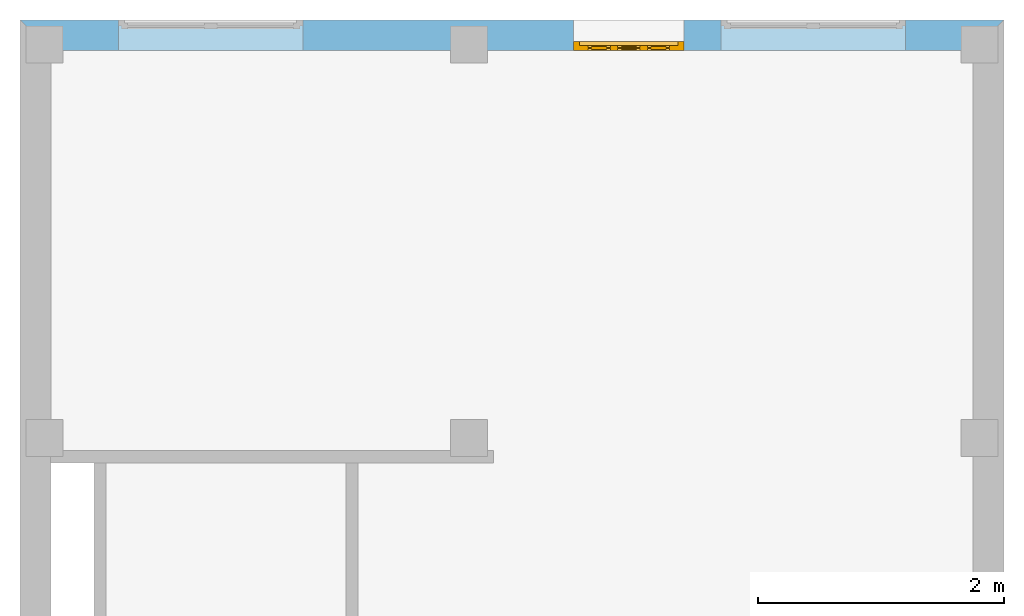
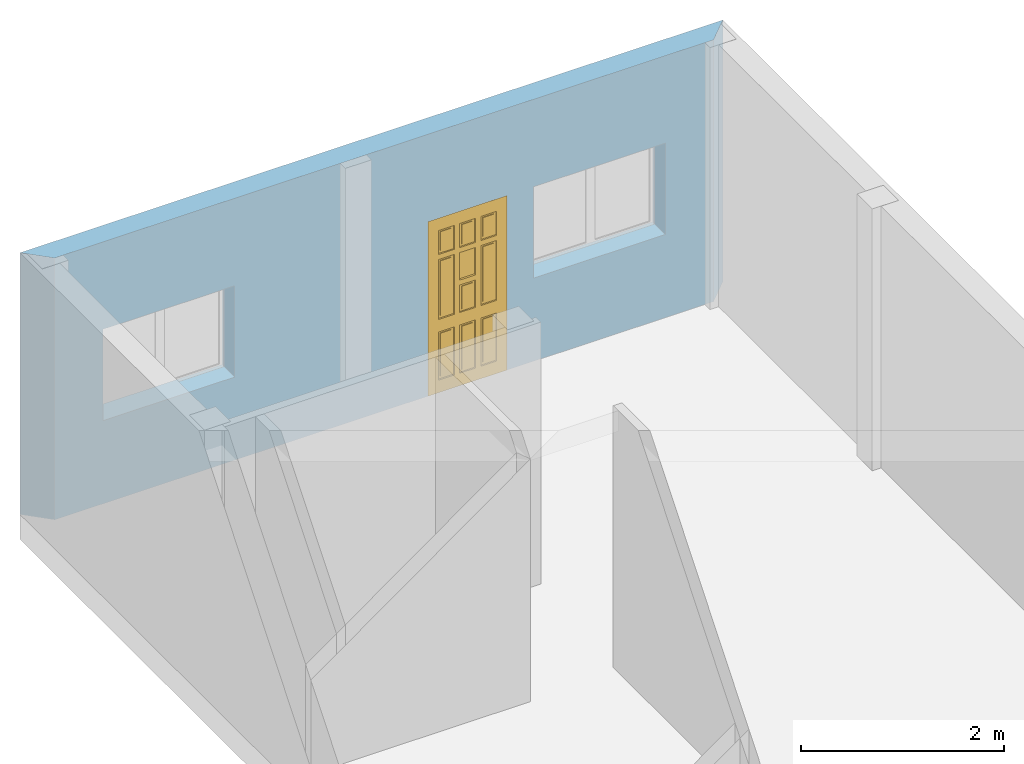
# One storey, part 5 of 5: 1 door, 3 openings, plus 1 element that does not belong to this part.
"""IFC2X3 building model written with IfcOpenShell, lengths in millimetres."""

from ifc_helpers import new_model, entity, si_unit, converted_unit, direction, frame, frame_2d, origin_with_axes, place, context, project, spatial, polyline, rectangle, outline, extrude, open_shell, surface_model, material, layer, layer_set, layer_usage, type_object, element, fill, save


model = new_model("IFC2X3")

# Units and contexts
context_of_model = context(None, 3, precision=1e-05, world=origin_with_axes(), true_north=direction((6.123234e-17, 1.0)))
plan_context = context("Plan", 3, precision=1e-05, world=origin_with_axes(), true_north=direction((6.123234e-17, 1.0)))
model_context = context("Model", 3, precision=1e-05, world=origin_with_axes(), true_north=direction((6.123234e-17, 1.0)))
ifc_project = project(units=[si_unit("LENGTHUNIT", "METRE", prefix="MILLI"), si_unit("AREAUNIT", "SQUARE_METRE"), si_unit("VOLUMEUNIT", "CUBIC_METRE"), converted_unit("PLANEANGLEUNIT", "DEGREE", entity("IfcPlaneAngleMeasure", 0.017453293), si_unit("PLANEANGLEUNIT", "RADIAN"), dimensions=[0, 0, 0, 0, 0, 0, 0]), si_unit("SOLIDANGLEUNIT", "STERADIAN"), si_unit("MASSUNIT", "GRAM"), si_unit("TIMEUNIT", "SECOND"), si_unit("THERMODYNAMICTEMPERATUREUNIT", "DEGREE_CELSIUS"), si_unit("LUMINOUSINTENSITYUNIT", "LUMEN")], contexts=[context_of_model, plan_context, model_context])

# Site, building, storey
site_placement = place(None, origin_with_axes())
site = spatial("IfcSite", under=ifc_project, at=site_placement, Name="Por defecto Sitio", CompositionType="ELEMENT")
building_placement = place(site_placement, origin_with_axes())
building = spatial("IfcBuilding", under=site, at=building_placement, Name="Por defecto Edificio", CompositionType="ELEMENT")
storey_placement = place(building_placement, origin_with_axes())
storey = spatial("IfcBuildingStorey", under=building, at=storey_placement, Name="Planta Baja", CompositionType="ELEMENT", Elevation=0.0)

# Wall, openings, door
ifc_material = material(Name="Bloque mampostería")
ifc_layer = layer(ifc_material, 250.0, ventilated="UNKNOWN")
ifc_layer_set = layer_set([ifc_layer], Name="Bloque mampostería 250")
ifc_layer_usage = layer_usage(ifc_layer_set, "AXIS2", "NEGATIVE", 0.0)
wall_type = type_object("IfcWallType", Name="Bloque mampostería 250", PredefinedType="NOTDEFINED", material=ifc_layer_set)
wall_placement = place(storey_placement, frame((-200.0, 12750.0, 0.0), z_axis=(0.0, 0.0, 1.0), x_axis=(1.0, 0.0, 0.0)))
wall = element("IfcWallStandardCase", 1, at=wall_placement, inside=storey, type_object=wall_type, material=ifc_layer_usage, Name="Muro-005", context=model_context, shape_type="SweptSolid", body=[
    extrude(outline(polyline([(250.0, -250.0), (7750.0, -250.0), (8000.0, 0.0), (0.0, 0.0), (250.0, -250.0)])), origin_with_axes(), (0.0, 0.0, 1.0), 3150.0),
])
opening_1_placement = place(wall_placement, frame((4950.0, -250.0, 0.0), z_axis=(0.0, 0.0, 1.0), x_axis=(1.0, 0.0, 0.0)))
opening_1 = element("IfcOpeningElement", 2, at=opening_1_placement, cuts=wall, ObjectType="Opening", context=model_context, shape_type="SweptSolid", body=[
    extrude(rectangle(XDim=900.0, YDim=2100.0, at=frame_2d((0.0, 1050.0), x_axis=(-1.0, 0.0))), frame((0.0, 0.0, 0.0), z_axis=(0.0, 1.0, 0.0), x_axis=(-1.0, 0.0, 0.0)), (0.0, 0.0, 1.0), 250.0),
])
opening_2_placement = place(wall_placement, frame((6450.0, -250.0, 1000.0), z_axis=(0.0, 0.0, 1.0), x_axis=(1.0, 0.0, 0.0)))
element("IfcOpeningElement", 3, at=opening_2_placement, cuts=wall, ObjectType="Opening", context=model_context, shape_type="SweptSolid", body=[
    extrude(rectangle(XDim=1500.0, YDim=1100.0, at=frame_2d((0.0, 550.0), x_axis=(-1.0, 0.0))), frame((0.0, 0.0, 0.0), z_axis=(0.0, 1.0, 0.0), x_axis=(-1.0, 0.0, 0.0)), (0.0, 0.0, 1.0), 250.0),
])
opening_3_placement = place(wall_placement, frame((1549.7728, -250.0, 1000.0), z_axis=(0.0, 0.0, 1.0), x_axis=(1.0, 0.0, 0.0)))
element("IfcOpeningElement", 4, at=opening_3_placement, cuts=wall, ObjectType="Opening", context=model_context, shape_type="SweptSolid", body=[
    extrude(rectangle(XDim=1500.0, YDim=1100.0, at=frame_2d((-1.110223e-13, 550.0), x_axis=(1.0, 0.0))), frame((0.0, 0.0, 0.0), z_axis=(0.0, 1.0, 0.0), x_axis=(-1.0, 0.0, 0.0)), (0.0, 0.0, 1.0), 250.0),
])
door_style = type_object("IfcDoorStyle", Name="P1 Entrada 13", ConstructionType="NOTDEFINED", OperationType="SINGLE_SWING_RIGHT", ParameterTakesPrecedence=False, Sizeable=False)
door_placement = place(opening_1_placement, frame((450.0, 75.0, 0.0), z_axis=(0.0, 0.0, 1.0), x_axis=(-1.0, 0.0, 0.0)))
door = element("IfcDoor", 5, at=door_placement, inside=storey, type_object=door_style, Name="P03", OverallHeight=2100.0, OverallWidth=900.0, context=model_context, shape_type="SurfaceModel", body=[
    surface_model("IfcShellBasedSurfaceModel", [(862.0, 31.0, -5.3884459e-15), (862.0, 31.0, 12.0), (850.0, 31.0, 12.0), (850.0, 31.0, -5.3884459e-15), (38.0, 31.0, -5.3884459e-15), (38.0, 31.0, 12.0), (50.0, 31.0, 12.0), (50.0, 0.0, 12.0), (850.0, 0.0, 12.0), (850.0, 0.0, -9.184851e-15), (50.0, 0.0, -9.184851e-15), (50.0, 31.0, -5.3884459e-15), (50.0, 31.0, -2.694223e-15), (50.0, 31.0, 2050.0), (50.0, 0.0, 2050.0), (50.0, 0.0, -4.5924255e-15), (38.0, 31.0, 2050.0), (38.0, 31.0, -2.694223e-15), (38.0, 75.0, 2050.0), (0.0, 75.0, 2050.0), (0.0, 0.0, 2050.0), (0.0, 0.0, 0.0), (0.0, 75.0, 3.3744595e-30), (38.0, 75.0, 3.0895052e-30), (862.0, 31.0, 2050.0), (850.0, 31.0, 2050.0), (850.0, 0.0, 2050.0), (900.0, 0.0, 2050.0), (900.0, 75.0, 2050.0), (862.0, 75.0, 2050.0), (862.0, 31.0, -2.694223e-15), (850.0, 31.0, -2.694223e-15), (850.0, 0.0, -4.5924255e-15), (900.0, 0.0, -4.5924255e-15), (900.0, 75.0, -3.3744595e-30), (862.0, 75.0, -3.0895052e-30), (38.0, 75.0, 2062.0), (38.0, 75.0, 2050.0), (0.0, 75.0, 2050.0), (0.0, 75.0, 2100.0), (900.0, 75.0, 2100.0), (900.0, 75.0, 2050.0), (862.0, 75.0, 2050.0), (862.0, 75.0, 2062.0), (38.0, 31.0, 2062.0), (38.0, 31.0, 2050.0), (50.0, 31.0, 2050.0), (50.0, 0.0, 2050.0), (0.0, 0.0, 2050.0), (0.0, 0.0, 2100.0), (900.0, 0.0, 2100.0), (900.0, 0.0, 2050.0), (862.0, 31.0, 2050.0), (850.0, 0.0, 2050.0), (850.0, 31.0, 2050.0), (862.0, 31.0, 2062.0), (862.0, 75.0, 150.0), (862.0, 31.0, 150.0), (782.0, 31.0, 150.0), (782.0, 75.0, 150.0), (862.0, 75.0, 1952.0), (862.0, 31.0, 1952.0), (782.0, 31.0, 1952.0), (782.0, 31.0, 1661.8667), (782.0, 31.0, 1601.8667), (782.0, 31.0, 880.0), (782.0, 31.0, 730.0), (782.0, 75.0, 730.0), (782.0, 75.0, 880.0), (782.0, 75.0, 1601.8667), (782.0, 75.0, 1661.8667), (782.0, 75.0, 1952.0), (38.0, 75.0, 150.0), (38.0, 31.0, 150.0), (38.0, 31.0, 1952.0), (38.0, 75.0, 1952.0), (118.0, 75.0, 150.0), (118.0, 31.0, 150.0), (118.0, 31.0, 730.0), (118.0, 31.0, 880.0), (118.0, 31.0, 1601.8667), (118.0, 31.0, 1661.8667), (118.0, 31.0, 1952.0), (118.0, 75.0, 1952.0), (118.0, 75.0, 1661.8667), (118.0, 75.0, 1601.8667), (118.0, 75.0, 880.0), (118.0, 75.0, 730.0), (862.0, 75.0, -3.0895052e-30), (862.0, 31.0, -2.694223e-15), (38.0, 31.0, -2.694223e-15), (38.0, 75.0, 3.0895052e-30), (862.0, 75.0, 150.0), (862.0, 31.0, 150.0), (782.0, 31.0, 150.0), (600.66667, 31.0, 150.0), (540.66667, 31.0, 150.0), (359.33333, 31.0, 150.0), (299.33333, 31.0, 150.0), (118.0, 31.0, 150.0), (38.0, 31.0, 150.0), (38.0, 75.0, 150.0), (118.0, 75.0, 150.0), (299.33333, 75.0, 150.0), (359.33333, 75.0, 150.0), (540.66667, 75.0, 150.0), (600.66667, 75.0, 150.0), (782.0, 75.0, 150.0), (862.0, 75.0, 2062.0), (862.0, 31.0, 2062.0), (862.0, 31.0, 1952.0), (862.0, 75.0, 1952.0), (38.0, 75.0, 2062.0), (38.0, 31.0, 2062.0), (38.0, 31.0, 1952.0), (118.0, 31.0, 1952.0), (299.33333, 31.0, 1952.0), (359.33333, 31.0, 1952.0), (540.66667, 31.0, 1952.0), (600.66667, 31.0, 1952.0), (782.0, 31.0, 1952.0), (782.0, 75.0, 1952.0), (600.66667, 75.0, 1952.0), (540.66667, 75.0, 1952.0), (359.33333, 75.0, 1952.0), (299.33333, 75.0, 1952.0), (118.0, 75.0, 1952.0), (38.0, 75.0, 1952.0), (540.66667, 75.0, 150.0), (540.66667, 31.0, 150.0), (540.66667, 31.0, 730.0), (540.66667, 75.0, 730.0), (600.66667, 75.0, 150.0), (600.66667, 31.0, 150.0), (600.66667, 31.0, 730.0), (600.66667, 75.0, 730.0), (540.66667, 75.0, 880.0), (540.66667, 31.0, 880.0), (540.66667, 31.0, 1210.9333), (540.66667, 75.0, 1210.9333), (600.66667, 75.0, 880.0), (600.66667, 31.0, 880.0), (600.66667, 31.0, 1601.8667), (540.66667, 31.0, 1601.8667), (540.66667, 31.0, 1270.9333), (540.66667, 75.0, 1270.9333), (540.66667, 75.0, 1601.8667), (600.66667, 75.0, 1601.8667), (540.66667, 75.0, 1661.8667), (540.66667, 31.0, 1661.8667), (540.66667, 31.0, 1952.0), (540.66667, 75.0, 1952.0), (600.66667, 75.0, 1661.8667), (600.66667, 31.0, 1661.8667), (600.66667, 31.0, 1952.0), (600.66667, 75.0, 1952.0), (299.33333, 75.0, 150.0), (299.33333, 31.0, 150.0), (299.33333, 31.0, 730.0), (299.33333, 75.0, 730.0), (359.33333, 75.0, 150.0), (359.33333, 31.0, 150.0), (359.33333, 31.0, 730.0), (359.33333, 75.0, 730.0), (299.33333, 75.0, 880.0), (299.33333, 31.0, 880.0), (299.33333, 31.0, 1601.8667), (299.33333, 75.0, 1601.8667), (359.33333, 75.0, 880.0), (359.33333, 31.0, 880.0), (359.33333, 31.0, 1210.9333), (359.33333, 31.0, 1270.9333), (359.33333, 31.0, 1601.8667), (359.33333, 75.0, 1601.8667), (359.33333, 75.0, 1270.9333), (359.33333, 75.0, 1210.9333), (299.33333, 75.0, 1661.8667), (299.33333, 31.0, 1661.8667), (299.33333, 31.0, 1952.0), (299.33333, 75.0, 1952.0), (359.33333, 75.0, 1661.8667), (359.33333, 31.0, 1661.8667), (359.33333, 31.0, 1952.0), (359.33333, 75.0, 1952.0), (782.0, 75.0, 1601.8667), (782.0, 31.0, 1601.8667), (600.66667, 31.0, 1601.8667), (600.66667, 75.0, 1601.8667), (782.0, 75.0, 1661.8667), (782.0, 31.0, 1661.8667), (600.66667, 31.0, 1661.8667), (540.66667, 31.0, 1661.8667), (359.33333, 31.0, 1661.8667), (299.33333, 31.0, 1661.8667), (118.0, 31.0, 1661.8667), (118.0, 31.0, 1601.8667), (299.33333, 31.0, 1601.8667), (359.33333, 31.0, 1601.8667), (540.66667, 31.0, 1601.8667), (540.66667, 75.0, 1601.8667), (359.33333, 75.0, 1601.8667), (299.33333, 75.0, 1601.8667), (118.0, 75.0, 1601.8667), (118.0, 75.0, 1661.8667), (299.33333, 75.0, 1661.8667), (359.33333, 75.0, 1661.8667), (540.66667, 75.0, 1661.8667), (600.66667, 75.0, 1661.8667), (359.33333, 75.0, 1210.9333), (359.33333, 31.0, 1210.9333), (359.33333, 31.0, 1270.9333), (359.33333, 75.0, 1270.9333), (540.66667, 75.0, 1210.9333), (540.66667, 31.0, 1210.9333), (540.66667, 31.0, 1270.9333), (540.66667, 75.0, 1270.9333), (782.0, 75.0, 730.0), (782.0, 31.0, 730.0), (600.66667, 31.0, 730.0), (600.66667, 75.0, 730.0), (782.0, 75.0, 880.0), (782.0, 31.0, 880.0), (600.66667, 31.0, 880.0), (540.66667, 31.0, 880.0), (359.33333, 31.0, 880.0), (299.33333, 31.0, 880.0), (118.0, 31.0, 880.0), (118.0, 31.0, 730.0), (299.33333, 31.0, 730.0), (359.33333, 31.0, 730.0), (540.66667, 31.0, 730.0), (540.66667, 75.0, 730.0), (359.33333, 75.0, 730.0), (299.33333, 75.0, 730.0), (118.0, 75.0, 730.0), (118.0, 75.0, 880.0), (299.33333, 75.0, 880.0), (359.33333, 75.0, 880.0), (540.66667, 75.0, 880.0), (600.66667, 75.0, 880.0), (782.0, 58.0, 150.0), (782.0, 48.0, 150.0), (600.66667, 48.0, 150.0), (600.66667, 58.0, 150.0), (782.0, 58.0, 730.0), (782.0, 48.0, 730.0), (600.66667, 48.0, 730.0), (600.66667, 58.0, 730.0), (540.66667, 58.0, 150.0), (540.66667, 48.0, 150.0), (359.33333, 48.0, 150.0), (359.33333, 58.0, 150.0), (540.66667, 58.0, 730.0), (540.66667, 48.0, 730.0), (359.33333, 48.0, 730.0), (359.33333, 58.0, 730.0), (299.33333, 58.0, 150.0), (299.33333, 48.0, 150.0), (118.0, 48.0, 150.0), (118.0, 58.0, 150.0), (299.33333, 58.0, 730.0), (299.33333, 48.0, 730.0), (118.0, 48.0, 730.0), (118.0, 58.0, 730.0), (782.0, 58.0, 1661.8667), (782.0, 48.0, 1661.8667), (600.66667, 48.0, 1661.8667), (600.66667, 58.0, 1661.8667), (782.0, 58.0, 1952.0), (782.0, 48.0, 1952.0), (600.66667, 48.0, 1952.0), (600.66667, 58.0, 1952.0), (540.66667, 58.0, 1661.8667), (540.66667, 48.0, 1661.8667), (359.33333, 48.0, 1661.8667), (359.33333, 58.0, 1661.8667), (540.66667, 58.0, 1952.0), (540.66667, 48.0, 1952.0), (359.33333, 48.0, 1952.0), (359.33333, 58.0, 1952.0), (299.33333, 58.0, 1661.8667), (299.33333, 48.0, 1661.8667), (118.0, 48.0, 1661.8667), (118.0, 58.0, 1661.8667), (299.33333, 58.0, 1952.0), (299.33333, 48.0, 1952.0), (118.0, 48.0, 1952.0), (118.0, 58.0, 1952.0), (782.0, 58.0, 880.0), (782.0, 48.0, 880.0), (600.66667, 48.0, 880.0), (600.66667, 58.0, 880.0), (782.0, 58.0, 1601.8667), (782.0, 48.0, 1601.8667), (600.66667, 48.0, 1601.8667), (600.66667, 58.0, 1601.8667), (540.66667, 58.0, 880.0), (540.66667, 48.0, 880.0), (359.33333, 48.0, 880.0), (359.33333, 58.0, 880.0), (540.66667, 58.0, 1210.9333), (540.66667, 48.0, 1210.9333), (359.33333, 48.0, 1210.9333), (359.33333, 58.0, 1210.9333), (299.33333, 58.0, 880.0), (299.33333, 48.0, 880.0), (118.0, 48.0, 880.0), (118.0, 58.0, 880.0), (299.33333, 58.0, 1601.8667), (299.33333, 48.0, 1601.8667), (118.0, 48.0, 1601.8667), (118.0, 58.0, 1601.8667), (540.66667, 53.0, 1270.9333), (359.33333, 53.0, 1270.9333), (359.33333, 53.0, 1601.8667), (540.66667, 53.0, 1601.8667), (752.0, 66.0, 180.0), (752.0, 58.0, 180.0), (630.66667, 58.0, 180.0), (630.66667, 66.0, 180.0), (752.0, 66.0, 700.0), (752.0, 58.0, 700.0), (630.66667, 58.0, 700.0), (630.66667, 66.0, 700.0), (510.66667, 66.0, 180.0), (510.66667, 58.0, 180.0), (389.33333, 58.0, 180.0), (389.33333, 66.0, 180.0), (510.66667, 66.0, 700.0), (510.66667, 58.0, 700.0), (389.33333, 58.0, 700.0), (389.33333, 66.0, 700.0), (269.33333, 66.0, 180.0), (269.33333, 58.0, 180.0), (148.0, 58.0, 180.0), (148.0, 66.0, 180.0), (269.33333, 66.0, 700.0), (269.33333, 58.0, 700.0), (148.0, 58.0, 700.0), (148.0, 66.0, 700.0), (752.0, 66.0, 1691.8667), (752.0, 58.0, 1691.8667), (630.66667, 58.0, 1691.8667), (630.66667, 66.0, 1691.8667), (752.0, 66.0, 1922.0), (752.0, 58.0, 1922.0), (630.66667, 58.0, 1922.0), (630.66667, 66.0, 1922.0), (510.66667, 66.0, 1691.8667), (510.66667, 58.0, 1691.8667), (389.33333, 58.0, 1691.8667), (389.33333, 66.0, 1691.8667), (510.66667, 66.0, 1922.0), (510.66667, 58.0, 1922.0), (389.33333, 58.0, 1922.0), (389.33333, 66.0, 1922.0), (269.33333, 66.0, 1691.8667), (269.33333, 58.0, 1691.8667), (148.0, 58.0, 1691.8667), (148.0, 66.0, 1691.8667), (269.33333, 66.0, 1922.0), (269.33333, 58.0, 1922.0), (148.0, 58.0, 1922.0), (148.0, 66.0, 1922.0), (752.0, 66.0, 910.0), (752.0, 58.0, 910.0), (630.66667, 58.0, 910.0), (630.66667, 66.0, 910.0), (752.0, 66.0, 1571.8667), (752.0, 58.0, 1571.8667), (630.66667, 58.0, 1571.8667), (630.66667, 66.0, 1571.8667), (510.66667, 66.0, 910.0), (510.66667, 58.0, 910.0), (389.33333, 58.0, 910.0), (389.33333, 66.0, 910.0), (510.66667, 66.0, 1180.9333), (510.66667, 58.0, 1180.9333), (389.33333, 58.0, 1180.9333), (389.33333, 66.0, 1180.9333), (269.33333, 66.0, 910.0), (269.33333, 58.0, 910.0), (148.0, 58.0, 910.0), (148.0, 66.0, 910.0), (269.33333, 66.0, 1571.8667), (269.33333, 58.0, 1571.8667), (148.0, 58.0, 1571.8667), (148.0, 66.0, 1571.8667), (752.0, 48.0, 180.0), (752.0, 40.0, 180.0), (630.66667, 40.0, 180.0), (630.66667, 48.0, 180.0), (752.0, 48.0, 700.0), (752.0, 40.0, 700.0), (630.66667, 40.0, 700.0), (630.66667, 48.0, 700.0), (510.66667, 48.0, 180.0), (510.66667, 40.0, 180.0), (389.33333, 40.0, 180.0), (389.33333, 48.0, 180.0), (510.66667, 48.0, 700.0), (510.66667, 40.0, 700.0), (389.33333, 40.0, 700.0), (389.33333, 48.0, 700.0), (269.33333, 48.0, 180.0), (269.33333, 40.0, 180.0), (148.0, 40.0, 180.0), (148.0, 48.0, 180.0), (269.33333, 48.0, 700.0), (269.33333, 40.0, 700.0), (148.0, 40.0, 700.0), (148.0, 48.0, 700.0), (752.0, 48.0, 1691.8667), (752.0, 40.0, 1691.8667), (630.66667, 40.0, 1691.8667), (630.66667, 48.0, 1691.8667), (752.0, 48.0, 1922.0), (752.0, 40.0, 1922.0), (630.66667, 40.0, 1922.0), (630.66667, 48.0, 1922.0), (510.66667, 48.0, 1691.8667), (510.66667, 40.0, 1691.8667), (389.33333, 40.0, 1691.8667), (389.33333, 48.0, 1691.8667), (510.66667, 48.0, 1922.0), (510.66667, 40.0, 1922.0), (389.33333, 40.0, 1922.0), (389.33333, 48.0, 1922.0), (269.33333, 48.0, 1691.8667), (269.33333, 40.0, 1691.8667), (148.0, 40.0, 1691.8667), (148.0, 48.0, 1691.8667), (269.33333, 48.0, 1922.0), (269.33333, 40.0, 1922.0), (148.0, 40.0, 1922.0), (148.0, 48.0, 1922.0), (752.0, 48.0, 910.0), (752.0, 40.0, 910.0), (630.66667, 40.0, 910.0), (630.66667, 48.0, 910.0), (752.0, 48.0, 1571.8667), (752.0, 40.0, 1571.8667), (630.66667, 40.0, 1571.8667), (630.66667, 48.0, 1571.8667), (510.66667, 48.0, 910.0), (510.66667, 40.0, 910.0), (389.33333, 40.0, 910.0), (389.33333, 48.0, 910.0), (510.66667, 48.0, 1180.9333), (510.66667, 40.0, 1180.9333), (389.33333, 40.0, 1180.9333), (389.33333, 48.0, 1180.9333), (269.33333, 48.0, 910.0), (269.33333, 40.0, 910.0), (148.0, 40.0, 910.0), (148.0, 48.0, 910.0), (269.33333, 48.0, 1571.8667), (269.33333, 40.0, 1571.8667), (148.0, 40.0, 1571.8667), (148.0, 48.0, 1571.8667)], [open_shell([[[0, 1, 2, 3]], [[4, 5, 1, 0]], [[1, 5, 6, 7, 8, 2]], [[3, 2, 8, 9]], [[0, 3, 9, 10, 11, 4]], [[11, 6, 5, 4]], [[10, 7, 6, 11]], [[9, 8, 7, 10]]]), open_shell([[[12, 13, 14, 15]], [[16, 13, 12, 17]], [[16, 18, 19, 20, 14, 13]], [[21, 15, 14, 20]], [[17, 12, 15, 21, 22, 23]], [[18, 16, 17, 23]], [[18, 23, 22, 19]], [[20, 19, 22, 21]]]), open_shell([[[24, 25, 26, 27, 28, 29]], [[25, 24, 30, 31]], [[25, 31, 32, 26]], [[32, 33, 27, 26]], [[33, 34, 28, 27]], [[35, 29, 28, 34]], [[24, 29, 35, 30]], [[30, 35, 34, 33, 32, 31]]]), open_shell([[[36, 37, 38, 39, 40, 41, 42, 43]], [[37, 36, 44, 45]], [[45, 46, 47, 48, 38, 37]], [[49, 39, 38, 48]], [[50, 40, 39, 49]], [[51, 41, 40, 50]], [[52, 42, 41, 51, 53, 54]], [[43, 42, 52, 55]], [[36, 43, 55, 44]], [[52, 54, 46, 45, 44, 55]], [[46, 54, 53, 47]], [[50, 49, 48, 47, 53, 51]]]), open_shell([[[56, 57, 58, 59]], [[60, 61, 57, 56]], [[57, 61, 62, 63, 64, 65, 66, 58]], [[59, 58, 66, 67]], [[56, 59, 67, 68, 69, 70, 71, 60]], [[71, 62, 61, 60]], [[70, 63, 62, 71]], [[69, 64, 63, 70]], [[68, 65, 64, 69]], [[67, 66, 65, 68]]]), open_shell([[[72, 73, 74, 75]], [[76, 77, 73, 72]], [[73, 77, 78, 79, 80, 81, 82, 74]], [[75, 74, 82, 83]], [[72, 75, 83, 84, 85, 86, 87, 76]], [[87, 78, 77, 76]], [[86, 79, 78, 87]], [[85, 80, 79, 86]], [[84, 81, 80, 85]], [[83, 82, 81, 84]]]), open_shell([[[88, 89, 90, 91]], [[92, 93, 89, 88]], [[89, 93, 94, 95, 96, 97, 98, 99, 100, 90]], [[91, 90, 100, 101]], [[88, 91, 101, 102, 103, 104, 105, 106, 107, 92]], [[107, 94, 93, 92]], [[106, 95, 94, 107]], [[105, 96, 95, 106]], [[104, 97, 96, 105]], [[103, 98, 97, 104]], [[102, 99, 98, 103]], [[101, 100, 99, 102]]]), open_shell([[[108, 109, 110, 111]], [[112, 113, 109, 108]], [[109, 113, 114, 115, 116, 117, 118, 119, 120, 110]], [[111, 110, 120, 121]], [[108, 111, 121, 122, 123, 124, 125, 126, 127, 112]], [[127, 114, 113, 112]], [[126, 115, 114, 127]], [[125, 116, 115, 126]], [[124, 117, 116, 125]], [[123, 118, 117, 124]], [[122, 119, 118, 123]], [[121, 120, 119, 122]]]), open_shell([[[128, 129, 130, 131]], [[132, 133, 129, 128]], [[129, 133, 134, 130]], [[131, 130, 134, 135]], [[128, 131, 135, 132]], [[135, 134, 133, 132]]]), open_shell([[[136, 137, 138, 139]], [[140, 141, 137, 136]], [[137, 141, 142, 143, 144, 138]], [[139, 138, 144, 145]], [[136, 139, 145, 146, 147, 140]], [[147, 142, 141, 140]], [[146, 143, 142, 147]], [[145, 144, 143, 146]]]), open_shell([[[148, 149, 150, 151]], [[152, 153, 149, 148]], [[149, 153, 154, 150]], [[151, 150, 154, 155]], [[148, 151, 155, 152]], [[155, 154, 153, 152]]]), open_shell([[[156, 157, 158, 159]], [[160, 161, 157, 156]], [[157, 161, 162, 158]], [[159, 158, 162, 163]], [[156, 159, 163, 160]], [[163, 162, 161, 160]]]), open_shell([[[164, 165, 166, 167]], [[168, 169, 165, 164]], [[165, 169, 170, 171, 172, 166]], [[167, 166, 172, 173]], [[164, 167, 173, 174, 175, 168]], [[175, 170, 169, 168]], [[174, 171, 170, 175]], [[173, 172, 171, 174]]]), open_shell([[[176, 177, 178, 179]], [[180, 181, 177, 176]], [[177, 181, 182, 178]], [[179, 178, 182, 183]], [[176, 179, 183, 180]], [[183, 182, 181, 180]]]), open_shell([[[184, 185, 186, 187]], [[188, 189, 185, 184]], [[185, 189, 190, 191, 192, 193, 194, 195, 196, 197, 198, 186]], [[187, 186, 198, 199]], [[184, 187, 199, 200, 201, 202, 203, 204, 205, 206, 207, 188]], [[207, 190, 189, 188]], [[206, 191, 190, 207]], [[205, 192, 191, 206]], [[204, 193, 192, 205]], [[203, 194, 193, 204]], [[202, 195, 194, 203]], [[201, 196, 195, 202]], [[200, 197, 196, 201]], [[199, 198, 197, 200]]]), open_shell([[[208, 209, 210, 211]], [[212, 213, 209, 208]], [[209, 213, 214, 210]], [[211, 210, 214, 215]], [[208, 211, 215, 212]], [[215, 214, 213, 212]]]), open_shell([[[216, 217, 218, 219]], [[220, 221, 217, 216]], [[217, 221, 222, 223, 224, 225, 226, 227, 228, 229, 230, 218]], [[219, 218, 230, 231]], [[216, 219, 231, 232, 233, 234, 235, 236, 237, 238, 239, 220]], [[239, 222, 221, 220]], [[238, 223, 222, 239]], [[237, 224, 223, 238]], [[236, 225, 224, 237]], [[235, 226, 225, 236]], [[234, 227, 226, 235]], [[233, 228, 227, 234]], [[232, 229, 228, 233]], [[231, 230, 229, 232]]]), open_shell([[[240, 241, 242, 243]], [[244, 245, 241, 240]], [[241, 245, 246, 242]], [[243, 242, 246, 247]], [[240, 243, 247, 244]], [[247, 246, 245, 244]]]), open_shell([[[248, 249, 250, 251]], [[252, 253, 249, 248]], [[249, 253, 254, 250]], [[251, 250, 254, 255]], [[248, 251, 255, 252]], [[255, 254, 253, 252]]]), open_shell([[[256, 257, 258, 259]], [[260, 261, 257, 256]], [[257, 261, 262, 258]], [[259, 258, 262, 263]], [[256, 259, 263, 260]], [[263, 262, 261, 260]]]), open_shell([[[264, 265, 266, 267]], [[268, 269, 265, 264]], [[265, 269, 270, 266]], [[267, 266, 270, 271]], [[264, 267, 271, 268]], [[271, 270, 269, 268]]]), open_shell([[[272, 273, 274, 275]], [[276, 277, 273, 272]], [[273, 277, 278, 274]], [[275, 274, 278, 279]], [[272, 275, 279, 276]], [[279, 278, 277, 276]]]), open_shell([[[280, 281, 282, 283]], [[284, 285, 281, 280]], [[281, 285, 286, 282]], [[283, 282, 286, 287]], [[280, 283, 287, 284]], [[287, 286, 285, 284]]]), open_shell([[[288, 289, 290, 291]], [[292, 293, 289, 288]], [[289, 293, 294, 290]], [[291, 290, 294, 295]], [[288, 291, 295, 292]], [[295, 294, 293, 292]]]), open_shell([[[296, 297, 298, 299]], [[300, 301, 297, 296]], [[297, 301, 302, 298]], [[299, 298, 302, 303]], [[296, 299, 303, 300]], [[303, 302, 301, 300]]]), open_shell([[[304, 305, 306, 307]], [[308, 309, 305, 304]], [[305, 309, 310, 306]], [[307, 306, 310, 311]], [[304, 307, 311, 308]], [[311, 310, 309, 308]]]), open_shell([[[312, 313, 314, 315]]]), open_shell([[[316, 317, 318, 319]], [[320, 321, 317, 316]], [[317, 321, 322, 318]], [[319, 318, 322, 323]], [[316, 319, 323, 320]], [[323, 322, 321, 320]]]), open_shell([[[324, 325, 326, 327]], [[328, 329, 325, 324]], [[325, 329, 330, 326]], [[327, 326, 330, 331]], [[324, 327, 331, 328]], [[331, 330, 329, 328]]]), open_shell([[[332, 333, 334, 335]], [[336, 337, 333, 332]], [[333, 337, 338, 334]], [[335, 334, 338, 339]], [[332, 335, 339, 336]], [[339, 338, 337, 336]]]), open_shell([[[340, 341, 342, 343]], [[344, 345, 341, 340]], [[341, 345, 346, 342]], [[343, 342, 346, 347]], [[340, 343, 347, 344]], [[347, 346, 345, 344]]]), open_shell([[[348, 349, 350, 351]], [[352, 353, 349, 348]], [[349, 353, 354, 350]], [[351, 350, 354, 355]], [[348, 351, 355, 352]], [[355, 354, 353, 352]]]), open_shell([[[356, 357, 358, 359]], [[360, 361, 357, 356]], [[357, 361, 362, 358]], [[359, 358, 362, 363]], [[356, 359, 363, 360]], [[363, 362, 361, 360]]]), open_shell([[[364, 365, 366, 367]], [[368, 369, 365, 364]], [[365, 369, 370, 366]], [[367, 366, 370, 371]], [[364, 367, 371, 368]], [[371, 370, 369, 368]]]), open_shell([[[372, 373, 374, 375]], [[376, 377, 373, 372]], [[373, 377, 378, 374]], [[375, 374, 378, 379]], [[372, 375, 379, 376]], [[379, 378, 377, 376]]]), open_shell([[[380, 381, 382, 383]], [[384, 385, 381, 380]], [[381, 385, 386, 382]], [[383, 382, 386, 387]], [[380, 383, 387, 384]], [[387, 386, 385, 384]]]), open_shell([[[388, 389, 390, 391]], [[392, 393, 389, 388]], [[389, 393, 394, 390]], [[391, 390, 394, 395]], [[388, 391, 395, 392]], [[395, 394, 393, 392]]]), open_shell([[[396, 397, 398, 399]], [[400, 401, 397, 396]], [[397, 401, 402, 398]], [[399, 398, 402, 403]], [[396, 399, 403, 400]], [[403, 402, 401, 400]]]), open_shell([[[404, 405, 406, 407]], [[408, 409, 405, 404]], [[405, 409, 410, 406]], [[407, 406, 410, 411]], [[404, 407, 411, 408]], [[411, 410, 409, 408]]]), open_shell([[[412, 413, 414, 415]], [[416, 417, 413, 412]], [[413, 417, 418, 414]], [[415, 414, 418, 419]], [[412, 415, 419, 416]], [[419, 418, 417, 416]]]), open_shell([[[420, 421, 422, 423]], [[424, 425, 421, 420]], [[421, 425, 426, 422]], [[423, 422, 426, 427]], [[420, 423, 427, 424]], [[427, 426, 425, 424]]]), open_shell([[[428, 429, 430, 431]], [[432, 433, 429, 428]], [[429, 433, 434, 430]], [[431, 430, 434, 435]], [[428, 431, 435, 432]], [[435, 434, 433, 432]]]), open_shell([[[436, 437, 438, 439]], [[440, 441, 437, 436]], [[437, 441, 442, 438]], [[439, 438, 442, 443]], [[436, 439, 443, 440]], [[443, 442, 441, 440]]]), open_shell([[[444, 445, 446, 447]], [[448, 449, 445, 444]], [[445, 449, 450, 446]], [[447, 446, 450, 451]], [[444, 447, 451, 448]], [[451, 450, 449, 448]]]), open_shell([[[452, 453, 454, 455]], [[456, 457, 453, 452]], [[453, 457, 458, 454]], [[455, 454, 458, 459]], [[452, 455, 459, 456]], [[459, 458, 457, 456]]])]),
])
fill(opening_1, door)

save(model, "model.ifc")
